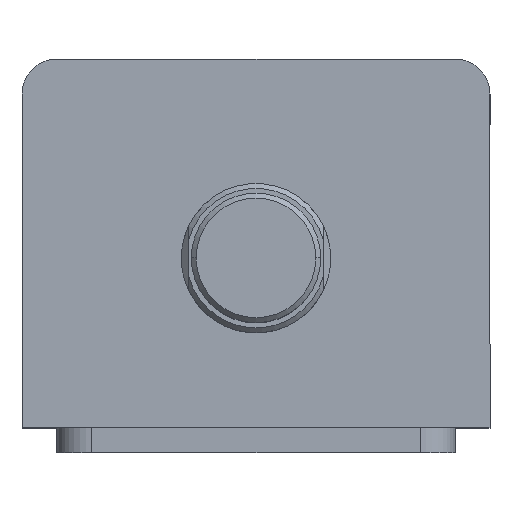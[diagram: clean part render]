
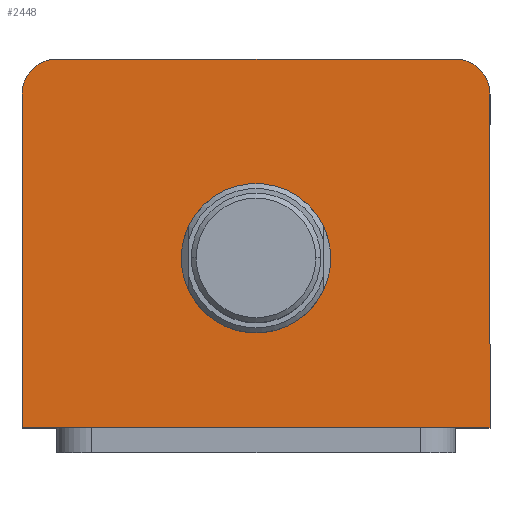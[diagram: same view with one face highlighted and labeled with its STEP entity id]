
A CAD part, top view. The second image highlights one B-rep face of the part: STEP entity #2448.
In plain terms, the highlighted planar face has unit normal (0, 0, 1).
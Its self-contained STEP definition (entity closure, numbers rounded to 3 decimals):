
#162 = AXIS2_PLACEMENT_3D ( 'NONE', #1076, #1075, #1073 ) ;
#175 = AXIS2_PLACEMENT_3D ( 'NONE', #1163, #1162, #1161 ) ;
#182 = AXIS2_PLACEMENT_3D ( 'NONE', #1198, #1197, #1196 ) ;
#206 = EDGE_LOOP ( 'NONE', ( #2966, #2965, #2964, #2963, #2962, #2961 ) ) ;
#235 = EDGE_LOOP ( 'NONE', ( #2968, #2967 ) ) ;
#334 = VERTEX_POINT ( 'NONE', #1375 ) ;
#346 = VERTEX_POINT ( 'NONE', #1315 ) ;
#356 = VERTEX_POINT ( 'NONE', #1301 ) ;
#357 = VERTEX_POINT ( 'NONE', #1314 ) ;
#364 = VERTEX_POINT ( 'NONE', #1288 ) ;
#384 = VERTEX_POINT ( 'NONE', #1316 ) ;
#386 = VERTEX_POINT ( 'NONE', #1353 ) ;
#428 = VERTEX_POINT ( 'NONE', #1294 ) ;
#634 = FACE_BOUND ( 'NONE', #235, .T. ) ;
#637 = FACE_OUTER_BOUND ( 'NONE', #206, .T. ) ;
#674 = CIRCLE ( 'NONE', #1428, 15. ) ;
#680 = LINE ( 'NONE', #2122, #683 ) ;
#683 = VECTOR ( 'NONE', #2120, 1000. ) ;
#930 = DIRECTION ( 'NONE',  ( -1., 0., 0. ) ) ;
#937 = CARTESIAN_POINT ( 'NONE',  ( -47., 37., 105. ) ) ;
#1073 = DIRECTION ( 'NONE',  ( 1., 0., 0. ) ) ;
#1075 = DIRECTION ( 'NONE',  ( 0., 0., 1. ) ) ;
#1076 = CARTESIAN_POINT ( 'NONE',  ( 0., -3., 105. ) ) ;
#1116 = DIRECTION ( 'NONE',  ( 0., -1., 0. ) ) ;
#1118 = CARTESIAN_POINT ( 'NONE',  ( -47., 37., 105. ) ) ;
#1161 = DIRECTION ( 'NONE',  ( 1., 0., 0. ) ) ;
#1162 = DIRECTION ( 'NONE',  ( 0., 0., 1. ) ) ;
#1163 = CARTESIAN_POINT ( 'NONE',  ( -40., 30., 105. ) ) ;
#1196 = DIRECTION ( 'NONE',  ( 1., 0., 0. ) ) ;
#1197 = DIRECTION ( 'NONE',  ( 0., 0., 1. ) ) ;
#1198 = CARTESIAN_POINT ( 'NONE',  ( 40., 30., 105. ) ) ;
#1226 = DIRECTION ( 'NONE',  ( 0., 1., 0. ) ) ;
#1227 = CARTESIAN_POINT ( 'NONE',  ( 47., 37., 105. ) ) ;
#1288 = CARTESIAN_POINT ( 'NONE',  ( -15., -3., 105. ) ) ;
#1294 = CARTESIAN_POINT ( 'NONE',  ( 40., 37., 105. ) ) ;
#1301 = CARTESIAN_POINT ( 'NONE',  ( 47., 30., 105. ) ) ;
#1314 = CARTESIAN_POINT ( 'NONE',  ( -47., -37., 105. ) ) ;
#1315 = CARTESIAN_POINT ( 'NONE',  ( -47., 30., 105. ) ) ;
#1316 = CARTESIAN_POINT ( 'NONE',  ( 47., -37., 105. ) ) ;
#1353 = CARTESIAN_POINT ( 'NONE',  ( -40., 37., 105. ) ) ;
#1375 = CARTESIAN_POINT ( 'NONE',  ( 15., -3., 105. ) ) ;
#1428 = AXIS2_PLACEMENT_3D ( 'NONE', #2129, #2128, #2127 ) ;
#1448 = AXIS2_PLACEMENT_3D ( 'NONE', #2239, #2233, #2231 ) ;
#1759 = EDGE_CURVE ( 'NONE', #428, #386, #2566, .T. ) ;
#1790 = EDGE_CURVE ( 'NONE', #384, #356, #2601, .T. ) ;
#1802 = EDGE_CURVE ( 'NONE', #356, #428, #2605, .T. ) ;
#1822 = EDGE_CURVE ( 'NONE', #386, #346, #2613, .T. ) ;
#1851 = EDGE_CURVE ( 'NONE', #346, #357, #2627, .T. ) ;
#1885 = EDGE_CURVE ( 'NONE', #334, #364, #2653, .T. ) ;
#2120 = DIRECTION ( 'NONE',  ( 1., 0., 0. ) ) ;
#2122 = CARTESIAN_POINT ( 'NONE',  ( -47., -37., 105. ) ) ;
#2127 = DIRECTION ( 'NONE',  ( 1., 0., 0. ) ) ;
#2128 = DIRECTION ( 'NONE',  ( 0., 0., 1. ) ) ;
#2129 = CARTESIAN_POINT ( 'NONE',  ( 0., -3., 105. ) ) ;
#2231 = DIRECTION ( 'NONE',  ( 1., 0., 0. ) ) ;
#2233 = DIRECTION ( 'NONE',  ( 0., 0., 1. ) ) ;
#2239 = CARTESIAN_POINT ( 'NONE',  ( 0., 0., 105. ) ) ;
#2241 = PLANE ( 'NONE',  #1448 ) ;
#2448 = ADVANCED_FACE ( 'NONE', ( #634, #637 ), #2241, .T. ) ;
#2475 = EDGE_CURVE ( 'NONE', #364, #334, #674, .T. ) ;
#2479 = EDGE_CURVE ( 'NONE', #357, #384, #680, .T. ) ;
#2566 = LINE ( 'NONE', #937, #2569 ) ;
#2569 = VECTOR ( 'NONE', #930, 1000. ) ;
#2601 = LINE ( 'NONE', #1227, #2604 ) ;
#2604 = VECTOR ( 'NONE', #1226, 1000. ) ;
#2605 = CIRCLE ( 'NONE', #182, 7. ) ;
#2613 = CIRCLE ( 'NONE', #175, 7. ) ;
#2627 = LINE ( 'NONE', #1118, #2630 ) ;
#2630 = VECTOR ( 'NONE', #1116, 1000. ) ;
#2653 = CIRCLE ( 'NONE', #162, 15. ) ;
#2961 = ORIENTED_EDGE ( 'NONE', *, *, #1802, .T. ) ;
#2962 = ORIENTED_EDGE ( 'NONE', *, *, #1790, .T. ) ;
#2963 = ORIENTED_EDGE ( 'NONE', *, *, #2479, .T. ) ;
#2964 = ORIENTED_EDGE ( 'NONE', *, *, #1851, .T. ) ;
#2965 = ORIENTED_EDGE ( 'NONE', *, *, #1822, .T. ) ;
#2966 = ORIENTED_EDGE ( 'NONE', *, *, #1759, .T. ) ;
#2967 = ORIENTED_EDGE ( 'NONE', *, *, #2475, .F. ) ;
#2968 = ORIENTED_EDGE ( 'NONE', *, *, #1885, .F. ) ;
